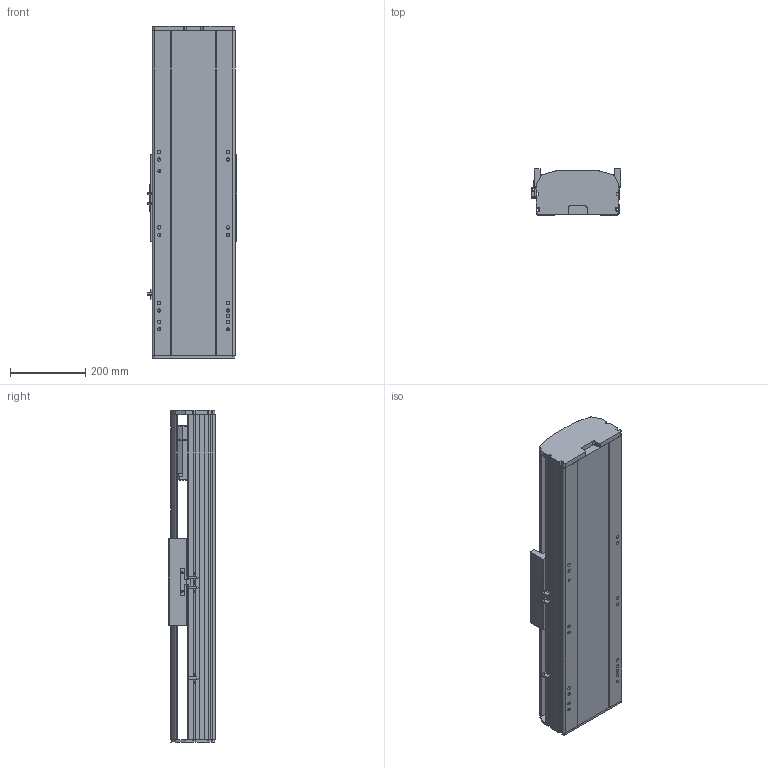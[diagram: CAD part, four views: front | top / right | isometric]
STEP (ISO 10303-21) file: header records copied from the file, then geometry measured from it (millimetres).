
FILE_DESCRIPTION (( 'STEP AP214' ), '1' );
FILE_NAME ('RTH22-XX-250-B-M75B-C4.STEP', '2025-10-24T10:05:53', ( 'Microsoft' ), ( 'Microsoft' ), 'SwSTEP 2.0', 'SolidWorks 2018', '' );
FILE_SCHEMA (( 'AUTOMOTIVE_DESIGN' ));
Length unit declared in the file: millimetre
Products named in the file (9): N_RTH22-GY-013外置感应片^RTH22-XX-XX-B-M75B-C4; N_RTH22-GY-001耜裔^RTH22-XX-XX-B-M75B-C4; N_OMRON EE-SX672 传感器^RTH22-XX-XX-B-M75B-C4; N_RTH22-B-007B奻裔^RTH22-XX-XX-B-M75B-C4; N_750W萇儂^RTH22-XX-XX-B-M75B-C4; RTH22-XX-250-B-M75B-C4; N_RTH22-E-004-SFS25賑釱^RTH22-XX-XX-B-M75B-C4; N_RTH22-B-011B菁釱^RTH22-XX-XX-B-M75B-C4; N_RTH22-B008萇儂啣^RTH22-XX-XX-B-M75B-C4
Assembly tree (10 placements, depth 2):
  RTH22-XX-250-B-M75B-C4
    N_RTH22-B-011B菁釱^RTH22-XX-XX-B-M75B-C4
    N_RTH22-GY-001耜裔^RTH22-XX-XX-B-M75B-C4
    N_750W萇儂^RTH22-XX-XX-B-M75B-C4
    N_RTH22-B008萇儂啣^RTH22-XX-XX-B-M75B-C4
    N_RTH22-B-007B奻裔^RTH22-XX-XX-B-M75B-C4
    N_OMRON EE-SX672 传感器^RTH22-XX-XX-B-M75B-C4  x3
    N_RTH22-GY-013外置感应片^RTH22-XX-XX-B-M75B-C4
    N_RTH22-E-004-SFS25賑釱^RTH22-XX-XX-B-M75B-C4
Bounding box: 238.5 x 122 x 880 mm (x, y, z)
Volume: 13188845.9 mm3; surface area: 1392534.1 mm2
Topology: 10 solids, 10 shells, 1479 faces, 4050 edges, 2623 vertices
Faces by surface type: plane 748, cylinder 406, bspline 279, cone 46
Entity records: 36117 total; most frequent: CARTESIAN_POINT 11401, ORIENTED_EDGE 5100, DIRECTION 4728, EDGE_CURVE 2550, VERTEX_POINT 1659, VECTOR 1596, LINE 1596, AXIS2_PLACEMENT_3D 1566
